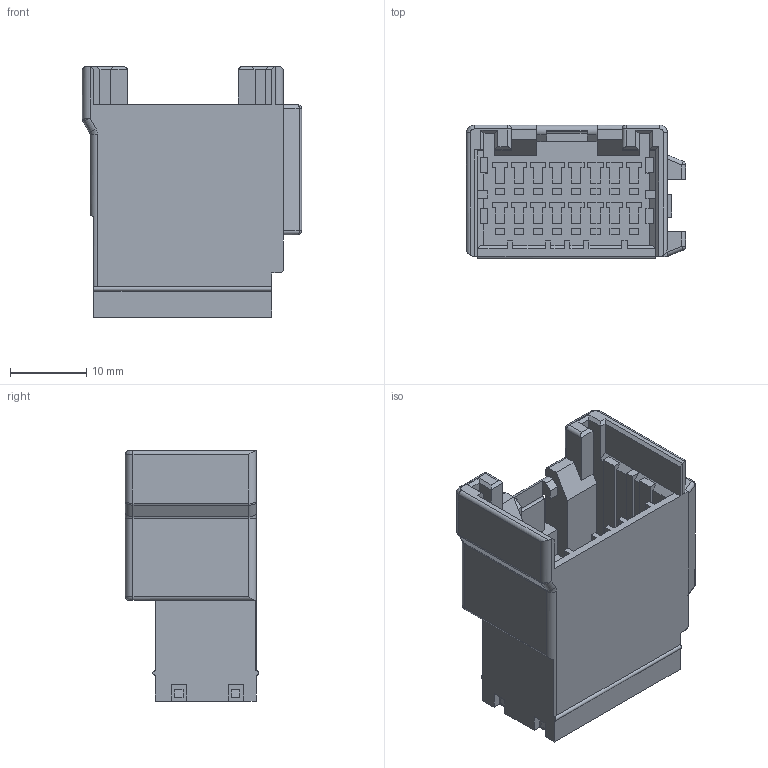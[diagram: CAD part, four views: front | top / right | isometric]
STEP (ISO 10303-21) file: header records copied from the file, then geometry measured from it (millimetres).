
FILE_DESCRIPTION((''),'2;1');
FILE_NAME('C-776178-2','2008-09-27T',('workeradm'),('Tyco Electronics Corporation'),'PRO/ENGINEER BY PARAMETRIC TECHNOLOGY CORPORATION, 2005450','PRO/ENGINEER BY PARAMETRIC TECHNOLOGY CORPORATION, 2005450','');
FILE_SCHEMA(('CONFIG_CONTROL_DESIGN', 'GEOMETRIC_VALIDATION_PROPERTIES_MIM'));
Length unit declared in the file: millimetre
Products named in the file (1): C-776178-2
Bounding box: 28.7 x 17.45 x 32.8 mm (x, y, z)
Volume: 7095.9 mm3; surface area: 5490.4 mm2
Topology: 1 solids, 1 shells, 490 faces, 1286 edges, 837 vertices
Faces by surface type: plane 436, cylinder 40, sphere 6, torus 4, bspline 4
Entity records: 15068 total; most frequent: CARTESIAN_POINT 2847, ORIENTED_EDGE 2572, DIRECTION 2308, EDGE_CURVE 1286, VECTOR 1200, LINE 1200, VERTEX_POINT 837, AXIS2_PLACEMENT_3D 554
